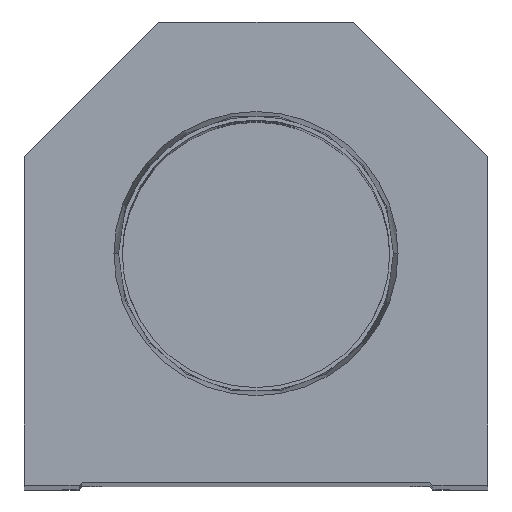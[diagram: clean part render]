
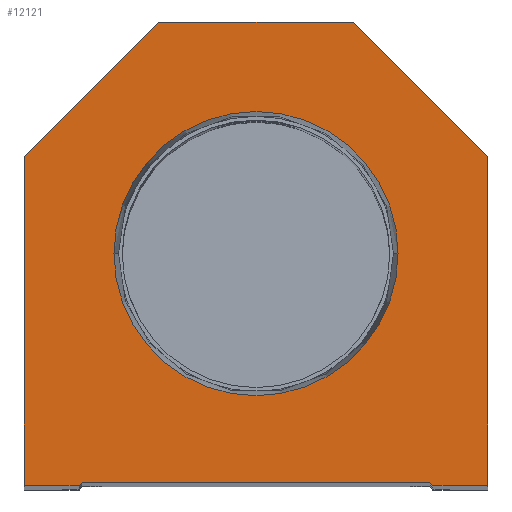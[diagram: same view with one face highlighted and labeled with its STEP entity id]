
A CAD part, top view. The second image highlights one B-rep face of the part: STEP entity #12121.
In plain terms, the highlighted planar face has unit normal (0, 0, 1).
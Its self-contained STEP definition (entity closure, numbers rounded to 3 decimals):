
#56 = ORIENTED_EDGE ( 'NONE', *, *, #17927, .T. ) ;
#308 = CARTESIAN_POINT ( 'NONE',  ( 38.1, 54.1, 0. ) ) ;
#318 = VECTOR ( 'NONE', #15860, 1000. ) ;
#486 = CARTESIAN_POINT ( 'NONE',  ( 0., 38.1, 0. ) ) ;
#835 = DIRECTION ( 'NONE',  ( 1., 0., 0. ) ) ;
#965 = VECTOR ( 'NONE', #15858, 1000. ) ;
#1118 = CARTESIAN_POINT ( 'NONE',  ( -38.1, 0., 0. ) ) ;
#1318 = VERTEX_POINT ( 'NONE', #4432 ) ;
#1618 = AXIS2_PLACEMENT_3D ( 'NONE', #21867, #11241, #11355 ) ;
#1836 = ORIENTED_EDGE ( 'NONE', *, *, #6983, .F. ) ;
#2123 = CARTESIAN_POINT ( 'NONE',  ( -16., 76.2, 0. ) ) ;
#2146 = CIRCLE ( 'NONE', #18913, 23.374 ) ;
#2175 = DIRECTION ( 'NONE',  ( -0.707, 0.707, 0. ) ) ;
#2371 = PLANE ( 'NONE',  #1618 ) ;
#2695 = CIRCLE ( 'NONE', #19766, 23.374 ) ;
#3158 = VERTEX_POINT ( 'NONE', #16446 ) ;
#3476 = DIRECTION ( 'NONE',  ( 0., 0., 1. ) ) ;
#3664 = CARTESIAN_POINT ( 'NONE',  ( -38.1, 54.1, 0. ) ) ;
#3789 = ORIENTED_EDGE ( 'NONE', *, *, #14696, .T. ) ;
#3836 = VECTOR ( 'NONE', #17155, 1000. ) ;
#3990 = EDGE_LOOP ( 'NONE', ( #1836, #14465 ) ) ;
#3993 = DIRECTION ( 'NONE',  ( 1., 0., 0. ) ) ;
#4071 = VECTOR ( 'NONE', #11445, 1000. ) ;
#4140 = FACE_BOUND ( 'NONE', #3990, .T. ) ;
#4342 = LINE ( 'NONE', #20866, #318 ) ;
#4432 = CARTESIAN_POINT ( 'NONE',  ( 23.374, 38.1, 0. ) ) ;
#5104 = CARTESIAN_POINT ( 'NONE',  ( -28.6, 0.5, 0. ) ) ;
#5380 = CARTESIAN_POINT ( 'NONE',  ( -29.1, 0., 0. ) ) ;
#5768 = VERTEX_POINT ( 'NONE', #308 ) ;
#6334 = VECTOR ( 'NONE', #2175, 1000. ) ;
#6604 = DIRECTION ( 'NONE',  ( 0.707, -0.707, 0. ) ) ;
#6850 = CARTESIAN_POINT ( 'NONE',  ( 28.6, 0., 0. ) ) ;
#6888 = CARTESIAN_POINT ( 'NONE',  ( -28.6, 0.5, 0. ) ) ;
#6960 = VERTEX_POINT ( 'NONE', #2123 ) ;
#6983 = EDGE_CURVE ( 'NONE', #1318, #11196, #2695, .T. ) ;
#7033 = LINE ( 'NONE', #3664, #13214 ) ;
#7189 = DIRECTION ( 'NONE',  ( 1., 0., 0. ) ) ;
#7344 = CARTESIAN_POINT ( 'NONE',  ( 16., 76.2, 0. ) ) ;
#8081 = EDGE_CURVE ( 'NONE', #22815, #19452, #8320, .T. ) ;
#8281 = VERTEX_POINT ( 'NONE', #6888 ) ;
#8320 = LINE ( 'NONE', #21282, #21698 ) ;
#8459 = LINE ( 'NONE', #15487, #16564 ) ;
#8602 = LINE ( 'NONE', #6850, #965 ) ;
#9443 = DIRECTION ( 'NONE',  ( 0., 0., 1. ) ) ;
#9572 = ORIENTED_EDGE ( 'NONE', *, *, #9800, .T. ) ;
#9800 = EDGE_CURVE ( 'NONE', #17763, #3158, #8459, .T. ) ;
#10099 = CARTESIAN_POINT ( 'NONE',  ( -38.1, 0., 0. ) ) ;
#10302 = DIRECTION ( 'NONE',  ( -0.707, -0.707, 0. ) ) ;
#10702 = EDGE_CURVE ( 'NONE', #6960, #10870, #7033, .T. ) ;
#10870 = VERTEX_POINT ( 'NONE', #16748 ) ;
#10928 = CARTESIAN_POINT ( 'NONE',  ( 0., 38.1, 0. ) ) ;
#11097 = ORIENTED_EDGE ( 'NONE', *, *, #8081, .T. ) ;
#11196 = VERTEX_POINT ( 'NONE', #12551 ) ;
#11241 = DIRECTION ( 'NONE',  ( 0., 0., 1. ) ) ;
#11355 = DIRECTION ( 'NONE',  ( 1., 0., 0. ) ) ;
#11445 = DIRECTION ( 'NONE',  ( -1., 0., 0. ) ) ;
#11599 = FACE_OUTER_BOUND ( 'NONE', #12296, .T. ) ;
#11671 = CARTESIAN_POINT ( 'NONE',  ( 16., 76.2, 0. ) ) ;
#11983 = DIRECTION ( 'NONE',  ( 0., -1., 0. ) ) ;
#12121 = ADVANCED_FACE ( 'NONE', ( #4140, #11599 ), #2371, .T. ) ;
#12296 = EDGE_LOOP ( 'NONE', ( #11097, #21814, #14385, #9572, #3789, #21819, #12383, #14470, #15529, #56 ) ) ;
#12383 = ORIENTED_EDGE ( 'NONE', *, *, #17257, .T. ) ;
#12551 = CARTESIAN_POINT ( 'NONE',  ( -23.374, 38.1, 0. ) ) ;
#13214 = VECTOR ( 'NONE', #10302, 1000. ) ;
#13739 = LINE ( 'NONE', #20968, #3836 ) ;
#13973 = CARTESIAN_POINT ( 'NONE',  ( 38.1, 0., 0. ) ) ;
#14039 = DIRECTION ( 'NONE',  ( 1., 0., 0. ) ) ;
#14385 = ORIENTED_EDGE ( 'NONE', *, *, #21681, .T. ) ;
#14465 = ORIENTED_EDGE ( 'NONE', *, *, #21068, .F. ) ;
#14470 = ORIENTED_EDGE ( 'NONE', *, *, #16365, .T. ) ;
#14696 = EDGE_CURVE ( 'NONE', #3158, #21677, #8602, .T. ) ;
#15184 = LINE ( 'NONE', #11671, #4071 ) ;
#15487 = CARTESIAN_POINT ( 'NONE',  ( 14.55, 14.55, 0. ) ) ;
#15529 = ORIENTED_EDGE ( 'NONE', *, *, #10702, .T. ) ;
#15667 = VECTOR ( 'NONE', #11983, 1000. ) ;
#15858 = DIRECTION ( 'NONE',  ( 1., 0., 0. ) ) ;
#15860 = DIRECTION ( 'NONE',  ( 0.707, 0.707, 0. ) ) ;
#16365 = EDGE_CURVE ( 'NONE', #19528, #6960, #15184, .T. ) ;
#16446 = CARTESIAN_POINT ( 'NONE',  ( 29.1, 0., 0. ) ) ;
#16564 = VECTOR ( 'NONE', #6604, 1000. ) ;
#16748 = CARTESIAN_POINT ( 'NONE',  ( -38.1, 54.1, 0. ) ) ;
#17155 = DIRECTION ( 'NONE',  ( 0., 1., 0. ) ) ;
#17257 = EDGE_CURVE ( 'NONE', #5768, #19528, #21428, .T. ) ;
#17763 = VERTEX_POINT ( 'NONE', #20284 ) ;
#17927 = EDGE_CURVE ( 'NONE', #10870, #22815, #19201, .T. ) ;
#18045 = CARTESIAN_POINT ( 'NONE',  ( 38.1, 54.1, 0. ) ) ;
#18215 = VECTOR ( 'NONE', #835, 1000. ) ;
#18913 = AXIS2_PLACEMENT_3D ( 'NONE', #10928, #3476, #7189 ) ;
#19201 = LINE ( 'NONE', #10099, #15667 ) ;
#19452 = VERTEX_POINT ( 'NONE', #5380 ) ;
#19528 = VERTEX_POINT ( 'NONE', #7344 ) ;
#19766 = AXIS2_PLACEMENT_3D ( 'NONE', #486, #9443, #3993 ) ;
#19975 = EDGE_CURVE ( 'NONE', #21677, #5768, #13739, .T. ) ;
#20284 = CARTESIAN_POINT ( 'NONE',  ( 28.6, 0.5, 0. ) ) ;
#20866 = CARTESIAN_POINT ( 'NONE',  ( -14.55, 14.55, 0. ) ) ;
#20968 = CARTESIAN_POINT ( 'NONE',  ( 38.1, 0., 0. ) ) ;
#21068 = EDGE_CURVE ( 'NONE', #11196, #1318, #2146, .T. ) ;
#21095 = LINE ( 'NONE', #5104, #18215 ) ;
#21282 = CARTESIAN_POINT ( 'NONE',  ( -28.6, 0., 0. ) ) ;
#21428 = LINE ( 'NONE', #18045, #6334 ) ;
#21664 = EDGE_CURVE ( 'NONE', #19452, #8281, #4342, .T. ) ;
#21677 = VERTEX_POINT ( 'NONE', #13973 ) ;
#21681 = EDGE_CURVE ( 'NONE', #8281, #17763, #21095, .T. ) ;
#21698 = VECTOR ( 'NONE', #14039, 1000. ) ;
#21814 = ORIENTED_EDGE ( 'NONE', *, *, #21664, .T. ) ;
#21819 = ORIENTED_EDGE ( 'NONE', *, *, #19975, .T. ) ;
#21867 = CARTESIAN_POINT ( 'NONE',  ( 0., 0., 0. ) ) ;
#22815 = VERTEX_POINT ( 'NONE', #1118 ) ;
